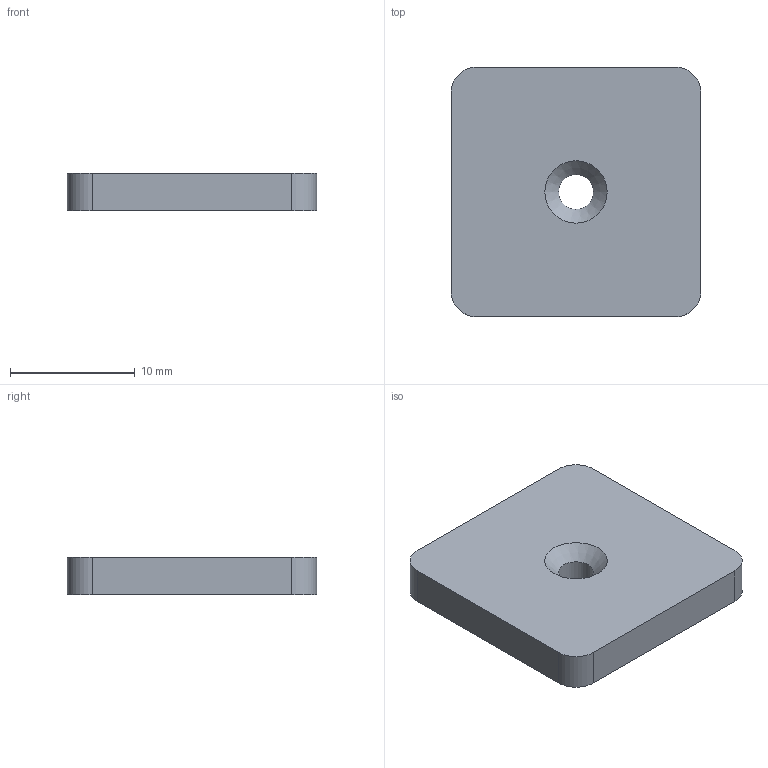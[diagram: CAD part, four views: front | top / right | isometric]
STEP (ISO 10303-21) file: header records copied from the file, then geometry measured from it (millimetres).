
FILE_DESCRIPTION(('Open CASCADE Model'),'2;1');
FILE_NAME('Open CASCADE Shape Model','2026-09-06T11:29:01',('Author'),( 'Open CASCADE'),'Open CASCADE STEP processor 7.7','Open CASCADE 7.7' ,'Unknown');
FILE_SCHEMA(('AUTOMOTIVE_DESIGN { 1 0 10303 214 1 1 1 1 }'));
Length unit declared in the file: millimetre
Products named in the file (1): Open CASCADE STEP translator 7.7 7
Bounding box: 20 x 20 x 3 mm (x, y, z)
Volume: 1164.5 mm3; surface area: 1032.8 mm2
Topology: 1 solids, 1 shells, 12 faces, 29 edges, 19 vertices
Faces by surface type: plane 6, cylinder 5, cone 1
Full cylindrical faces by diameter (mm): 2.8 x1
Entity records: 762 total; most frequent: CARTESIAN_POINT 149, DIRECTION 119, LINE 66, VECTOR 66, ORIENTED_EDGE 58, PCURVE 58, DEFINITIONAL_REPRESENTATION 58, EDGE_CURVE 29
